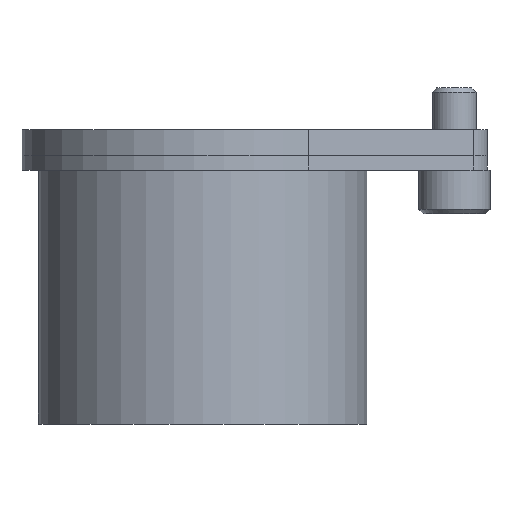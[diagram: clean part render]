
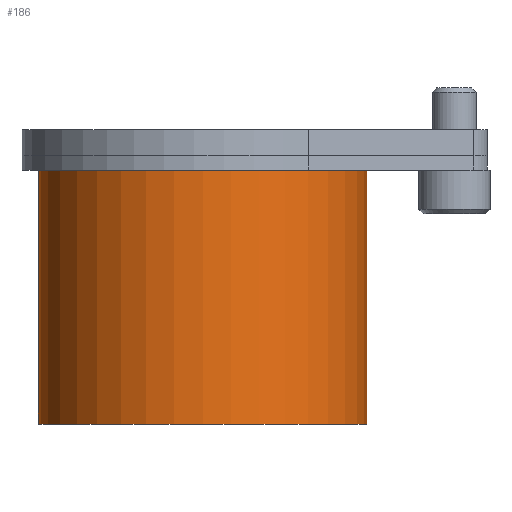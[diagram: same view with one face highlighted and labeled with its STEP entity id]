
A CAD part, front view. The second image highlights one B-rep face of the part: STEP entity #186.
In plain terms, the highlighted cylindrical face has radius 30 mm (diameter 60 mm), a partial arc.
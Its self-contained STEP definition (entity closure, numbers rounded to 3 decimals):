
#186=ADVANCED_FACE('',(#251),#221,.T.);
#221=CYLINDRICAL_SURFACE('',#1031,30.);
#251=FACE_OUTER_BOUND('',#309,.T.);
#309=EDGE_LOOP('',(#605,#606,#607,#608));
#365=LINE('',#1512,#425);
#366=LINE('',#1516,#426);
#425=VECTOR('',#1251,1.);
#426=VECTOR('',#1254,1.);
#605=ORIENTED_EDGE('',*,*,#851,.T.);
#606=ORIENTED_EDGE('',*,*,#852,.F.);
#607=ORIENTED_EDGE('',*,*,#853,.F.);
#608=ORIENTED_EDGE('',*,*,#848,.T.);
#745=VERTEX_POINT('',#1505);
#746=VERTEX_POINT('',#1507);
#747=VERTEX_POINT('',#1513);
#748=VERTEX_POINT('',#1515);
#848=EDGE_CURVE('',#746,#745,#937,.T.);
#851=EDGE_CURVE('',#745,#747,#365,.T.);
#852=EDGE_CURVE('',#748,#747,#939,.T.);
#853=EDGE_CURVE('',#746,#748,#366,.T.);
#937=CIRCLE('',#1026,30.);
#939=CIRCLE('',#1030,30.);
#1026=AXIS2_PLACEMENT_3D('',#1506,#1242,#1243);
#1030=AXIS2_PLACEMENT_3D('',#1514,#1252,#1253);
#1031=AXIS2_PLACEMENT_3D('',#1517,#1255,#1256);
#1242=DIRECTION('',(0.,0.,-1.));
#1243=DIRECTION('',(0.,1.,0.));
#1251=DIRECTION('',(0.,0.,-1.));
#1252=DIRECTION('',(0.,0.,-1.));
#1253=DIRECTION('',(0.,1.,0.));
#1254=DIRECTION('',(0.,0.,-1.));
#1255=DIRECTION('',(0.,0.,-1.));
#1256=DIRECTION('',(0.,-1.,0.));
#1505=CARTESIAN_POINT('',(-30.,0.,-7.4));
#1506=CARTESIAN_POINT('',(0.,0.,-7.4));
#1507=CARTESIAN_POINT('',(30.,0.,-7.4));
#1512=CARTESIAN_POINT('',(-30.,0.,-7.4));
#1513=CARTESIAN_POINT('',(-30.,0.,-53.8));
#1514=CARTESIAN_POINT('',(0.,0.,-53.8));
#1515=CARTESIAN_POINT('',(30.,0.,-53.8));
#1516=CARTESIAN_POINT('',(30.,0.,-7.4));
#1517=CARTESIAN_POINT('',(0.,0.,-7.4));
